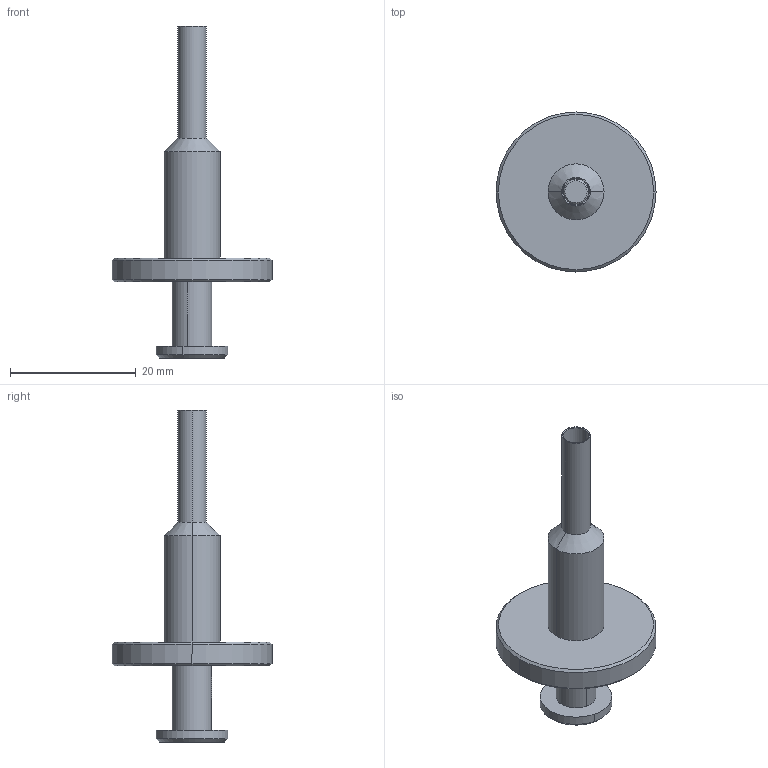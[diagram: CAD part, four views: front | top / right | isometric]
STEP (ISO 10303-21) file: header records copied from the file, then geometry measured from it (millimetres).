
FILE_DESCRIPTION (( 'STEP AP214' ), '1' );
FILE_NAME ('500-32-004.STEP', '2018-12-27T13:57:42', ( '' ), ( '' ), 'SwSTEP 2.0', 'SolidWorks 2016', '' );
FILE_SCHEMA (( 'AUTOMOTIVE_DESIGN' ));
Length unit declared in the file: inch
Products named in the file (1): 500-32-004
Bounding box: 25.4 x 25.4 x 52.7 mm (x, y, z)
Volume: 3692.6 mm3; surface area: 2661.3 mm2
Topology: 1 solids, 1 shells, 33 faces, 64 edges, 38 vertices
Faces by surface type: cylinder 14, cone 10, plane 7, torus 2
Entity records: 1315 total; most frequent: DIRECTION 172, CARTESIAN_POINT 136, ORIENTED_EDGE 128, AXIS2_PLACEMENT_3D 74, EDGE_CURVE 64, CIRCLE 40, VERTEX_POINT 38, EDGE_LOOP 38
